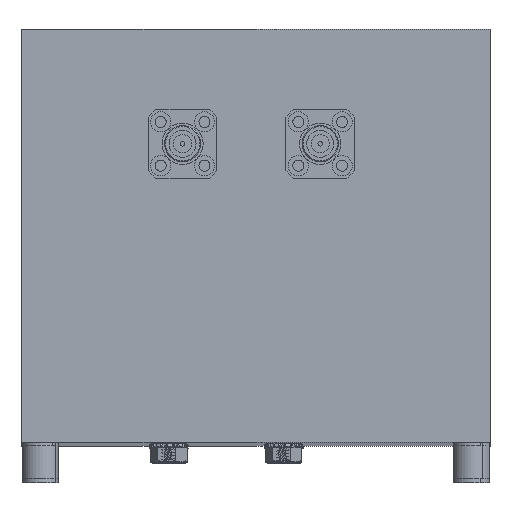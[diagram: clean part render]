
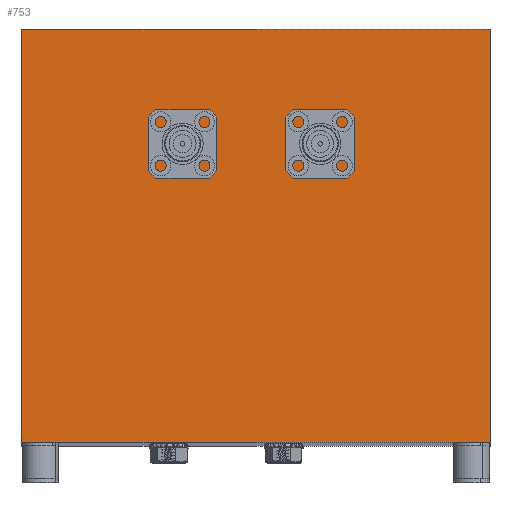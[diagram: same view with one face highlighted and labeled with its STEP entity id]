
A CAD part, top view. The second image highlights one B-rep face of the part: STEP entity #753.
In plain terms, the highlighted planar face has unit normal (0, 0, 1).
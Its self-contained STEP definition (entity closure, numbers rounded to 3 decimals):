
#16 = LINE ( 'NONE', #19295, #29415 ) ;
#118 = EDGE_LOOP ( 'NONE', ( #5827, #22717 ) ) ;
#632 = EDGE_LOOP ( 'NONE', ( #23589, #28648, #31190, #12164 ) ) ;
#753 = ADVANCED_FACE ( 'NONE', ( #26161, #29881, #11903 ), #11124, .F. ) ;
#1067 = CARTESIAN_POINT ( 'NONE',  ( 14., 65., 260. ) ) ;
#1746 = CIRCLE ( 'NONE', #4887, 2. ) ;
#2304 = LINE ( 'NONE', #7100, #19158 ) ;
#3078 = DIRECTION ( 'NONE',  ( 0., 0., -1. ) ) ;
#4176 = EDGE_CURVE ( 'NONE', #29223, #14635, #28533, .T. ) ;
#4315 = CARTESIAN_POINT ( 'NONE',  ( -18., 65., 260. ) ) ;
#4479 = EDGE_LOOP ( 'NONE', ( #9956, #25176 ) ) ;
#4887 = AXIS2_PLACEMENT_3D ( 'NONE', #1067, #17066, #22765 ) ;
#4909 = VERTEX_POINT ( 'NONE', #25234 ) ;
#5504 = EDGE_CURVE ( 'NONE', #21439, #12923, #33943, .T. ) ;
#5543 = CARTESIAN_POINT ( 'NONE',  ( 51., 0., 260. ) ) ;
#5676 = CARTESIAN_POINT ( 'NONE',  ( 51., 90., 260. ) ) ;
#5761 = AXIS2_PLACEMENT_3D ( 'NONE', #22789, #14514, #6636 ) ;
#5827 = ORIENTED_EDGE ( 'NONE', *, *, #11548, .F. ) ;
#6636 = DIRECTION ( 'NONE',  ( 1., 0., 0. ) ) ;
#7100 = CARTESIAN_POINT ( 'NONE',  ( -51., 90., 260. ) ) ;
#8544 = VERTEX_POINT ( 'NONE', #15003 ) ;
#8545 = CARTESIAN_POINT ( 'NONE',  ( 16., 65., 260. ) ) ;
#8614 = DIRECTION ( 'NONE',  ( 1., 0., 0. ) ) ;
#9956 = ORIENTED_EDGE ( 'NONE', *, *, #25475, .F. ) ;
#11124 = PLANE ( 'NONE',  #19479 ) ;
#11332 = DIRECTION ( 'NONE',  ( 1., 0., 0. ) ) ;
#11342 = EDGE_CURVE ( 'NONE', #8544, #12923, #21267, .T. ) ;
#11548 = EDGE_CURVE ( 'NONE', #14635, #29223, #19532, .T. ) ;
#11553 = CARTESIAN_POINT ( 'NONE',  ( 14., 65., 260. ) ) ;
#11903 = FACE_OUTER_BOUND ( 'NONE', #632, .T. ) ;
#12164 = ORIENTED_EDGE ( 'NONE', *, *, #19724, .T. ) ;
#12399 = DIRECTION ( 'NONE',  ( 0., -1., 0. ) ) ;
#12427 = VECTOR ( 'NONE', #21574, 1000. ) ;
#12923 = VERTEX_POINT ( 'NONE', #33079 ) ;
#14514 = DIRECTION ( 'NONE',  ( 0., 0., 1. ) ) ;
#14635 = VERTEX_POINT ( 'NONE', #16411 ) ;
#15003 = CARTESIAN_POINT ( 'NONE',  ( -51., 0., 260. ) ) ;
#16411 = CARTESIAN_POINT ( 'NONE',  ( -14., 65., 260. ) ) ;
#16575 = DIRECTION ( 'NONE',  ( 0., 0., 1. ) ) ;
#16690 = CARTESIAN_POINT ( 'NONE',  ( -16., 65., 260. ) ) ;
#17066 = DIRECTION ( 'NONE',  ( 0., 0., 1. ) ) ;
#17405 = DIRECTION ( 'NONE',  ( 0., 0., 1. ) ) ;
#18901 = VECTOR ( 'NONE', #25246, 1000. ) ;
#19158 = VECTOR ( 'NONE', #12399, 1000. ) ;
#19295 = CARTESIAN_POINT ( 'NONE',  ( 51., 90., 260. ) ) ;
#19479 = AXIS2_PLACEMENT_3D ( 'NONE', #5676, #3078, #22062 ) ;
#19532 = CIRCLE ( 'NONE', #22311, 2. ) ;
#19724 = EDGE_CURVE ( 'NONE', #20814, #8544, #2304, .T. ) ;
#20233 = CIRCLE ( 'NONE', #28697, 2. ) ;
#20814 = VERTEX_POINT ( 'NONE', #25017 ) ;
#21267 = LINE ( 'NONE', #5543, #12427 ) ;
#21439 = VERTEX_POINT ( 'NONE', #22656 ) ;
#21574 = DIRECTION ( 'NONE',  ( 1., 0., 0. ) ) ;
#21974 = CARTESIAN_POINT ( 'NONE',  ( 51., 90., 260. ) ) ;
#22062 = DIRECTION ( 'NONE',  ( -1., 0., 0. ) ) ;
#22311 = AXIS2_PLACEMENT_3D ( 'NONE', #16690, #16575, #11332 ) ;
#22656 = CARTESIAN_POINT ( 'NONE',  ( 51., 90., 260. ) ) ;
#22717 = ORIENTED_EDGE ( 'NONE', *, *, #4176, .F. ) ;
#22765 = DIRECTION ( 'NONE',  ( 1., 0., 0. ) ) ;
#22789 = CARTESIAN_POINT ( 'NONE',  ( -16., 65., 260. ) ) ;
#23589 = ORIENTED_EDGE ( 'NONE', *, *, #11342, .T. ) ;
#24607 = EDGE_CURVE ( 'NONE', #20814, #21439, #16, .T. ) ;
#25017 = CARTESIAN_POINT ( 'NONE',  ( -51., 90., 260. ) ) ;
#25176 = ORIENTED_EDGE ( 'NONE', *, *, #28472, .F. ) ;
#25234 = CARTESIAN_POINT ( 'NONE',  ( 12., 65., 260. ) ) ;
#25246 = DIRECTION ( 'NONE',  ( 0., -1., 0. ) ) ;
#25475 = EDGE_CURVE ( 'NONE', #26424, #4909, #20233, .T. ) ;
#26161 = FACE_BOUND ( 'NONE', #118, .T. ) ;
#26424 = VERTEX_POINT ( 'NONE', #8545 ) ;
#26487 = DIRECTION ( 'NONE',  ( 1., 0., 0. ) ) ;
#28472 = EDGE_CURVE ( 'NONE', #4909, #26424, #1746, .T. ) ;
#28533 = CIRCLE ( 'NONE', #5761, 2. ) ;
#28648 = ORIENTED_EDGE ( 'NONE', *, *, #5504, .F. ) ;
#28697 = AXIS2_PLACEMENT_3D ( 'NONE', #11553, #17405, #26487 ) ;
#29223 = VERTEX_POINT ( 'NONE', #4315 ) ;
#29415 = VECTOR ( 'NONE', #8614, 1000. ) ;
#29881 = FACE_BOUND ( 'NONE', #4479, .T. ) ;
#31190 = ORIENTED_EDGE ( 'NONE', *, *, #24607, .F. ) ;
#33079 = CARTESIAN_POINT ( 'NONE',  ( 51., 0., 260. ) ) ;
#33943 = LINE ( 'NONE', #21974, #18901 ) ;
